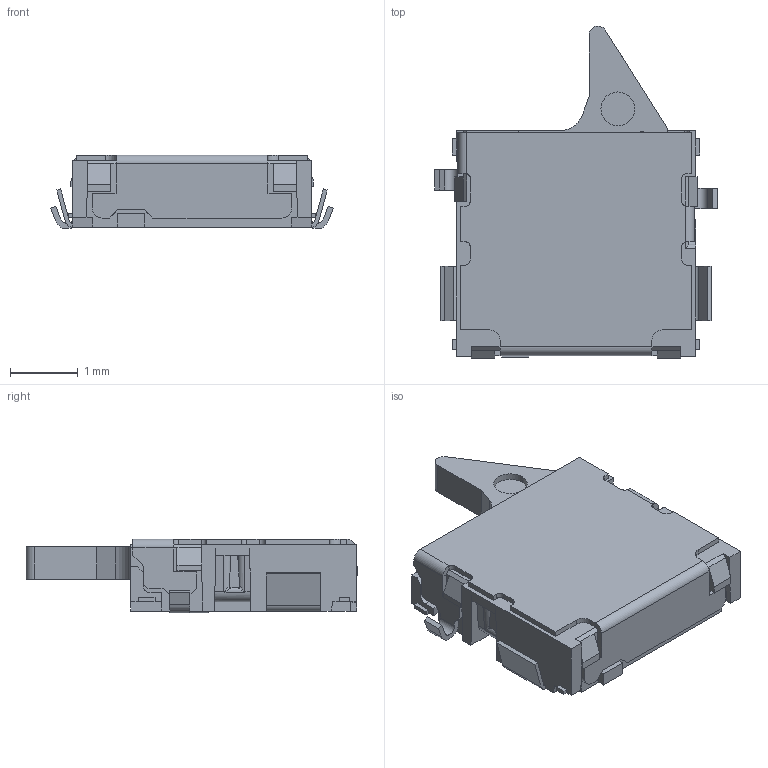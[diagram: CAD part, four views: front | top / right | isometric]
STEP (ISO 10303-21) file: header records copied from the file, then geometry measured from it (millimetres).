
FILE_DESCRIPTION (( 'STEP AP214' ), '1' );
FILE_NAME ('SPVS320200.STEP', '2012-08-05T22:37:38', ( '' ), ( '' ), 'SwSTEP 2.0', 'SolidWorks 2010', '' );
FILE_SCHEMA (( 'AUTOMOTIVE_DESIGN' ));
Length unit declared in the file: millimetre
Products named in the file (1): SPVS320200
Bounding box: 4.18 x 4.92 x 1.09 mm (x, y, z)
Volume: 12.1 mm3; surface area: 60 mm2
Topology: 1 solids, 6 shells, 402 faces, 1085 edges, 698 vertices
Faces by surface type: plane 290, cylinder 78, cone 16, bspline 12, torus 4, sphere 2
Entity records: 17329 total; most frequent: CARTESIAN_POINT 2886, ORIENTED_EDGE 2170, DIRECTION 1961, EDGE_CURVE 1085, LINE 815, VECTOR 815, VERTEX_POINT 698, AXIS2_PLACEMENT_3D 573
